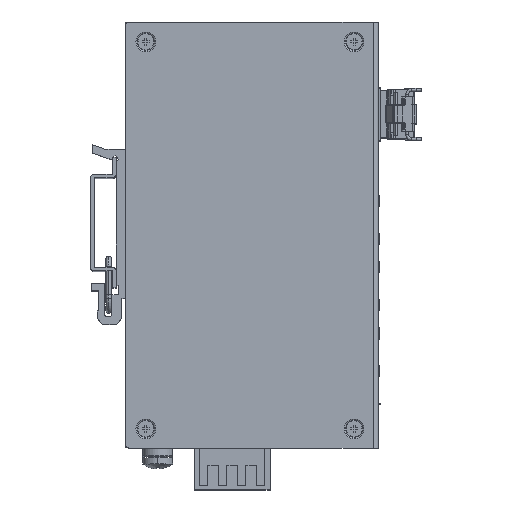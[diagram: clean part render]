
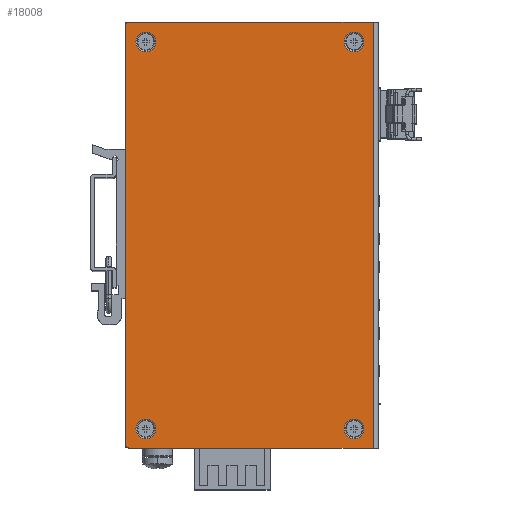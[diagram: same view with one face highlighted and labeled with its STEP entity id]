
A CAD part, top view. The second image highlights one B-rep face of the part: STEP entity #18008.
In plain terms, the highlighted planar face has unit normal (0, 0, 1) as drawn and (1, 0, 0) by its records, which use the part's own axes.
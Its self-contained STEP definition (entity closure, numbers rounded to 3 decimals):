
#15923=DIRECTION('',(0.,1.,0.));
#15924=VECTOR('',#15923,114.5);
#15925=CARTESIAN_POINT('',(22.8,0.,-79.454));
#15926=LINE('',#15925,#15924);
#15931=CARTESIAN_POINT('',(22.8,1.,-13.954));
#15932=DIRECTION('',(-1.,0.,0.));
#15933=DIRECTION('',(0.,-1.,0.));
#15934=AXIS2_PLACEMENT_3D('',#15931,#15932,#15933);
#15936=DIRECTION('',(0.,1.,0.));
#15937=VECTOR('',#15936,112.5);
#15938=CARTESIAN_POINT('',(22.8,1.,-12.954));
#15939=LINE('',#15938,#15937);
#15940=CARTESIAN_POINT('',(22.8,113.5,-13.954));
#15941=DIRECTION('',(-1.,0.,0.));
#15942=DIRECTION('',(0.,0.,1.));
#15943=AXIS2_PLACEMENT_3D('',#15940,#15941,#15942);
#15945=DIRECTION('',(0.,0.,-1.));
#15946=VECTOR('',#15945,65.5);
#15947=CARTESIAN_POINT('',(22.8,114.5,-13.954));
#15948=LINE('',#15947,#15946);
#15949=DIRECTION('',(0.,0.,1.));
#15950=VECTOR('',#15949,65.5);
#15951=CARTESIAN_POINT('',(22.8,0.,-79.454));
#15952=LINE('',#15951,#15950);
#15953=CARTESIAN_POINT('',(22.8,5.15,-18.354));
#15954=DIRECTION('',(1.,0.,0.));
#15955=DIRECTION('',(0.,0.,-1.));
#15956=AXIS2_PLACEMENT_3D('',#15953,#15954,#15955);
#15958=CARTESIAN_POINT('',(22.8,5.15,-18.354));
#15959=DIRECTION('',(1.,0.,0.));
#15960=DIRECTION('',(0.,0.,1.));
#15961=AXIS2_PLACEMENT_3D('',#15958,#15959,#15960);
#15963=CARTESIAN_POINT('',(22.8,109.15,-18.354));
#15964=DIRECTION('',(1.,0.,0.));
#15965=DIRECTION('',(0.,0.,-1.));
#15966=AXIS2_PLACEMENT_3D('',#15963,#15964,#15965);
#15968=CARTESIAN_POINT('',(22.8,109.15,-18.354));
#15969=DIRECTION('',(1.,0.,0.));
#15970=DIRECTION('',(0.,0.,1.));
#15971=AXIS2_PLACEMENT_3D('',#15968,#15969,#15970);
#15973=CARTESIAN_POINT('',(22.8,5.15,-74.354));
#15974=DIRECTION('',(1.,0.,0.));
#15975=DIRECTION('',(0.,0.,1.));
#15976=AXIS2_PLACEMENT_3D('',#15973,#15974,#15975);
#15978=CARTESIAN_POINT('',(22.8,5.15,-74.354));
#15979=DIRECTION('',(1.,0.,0.));
#15980=DIRECTION('',(0.,0.,-1.));
#15981=AXIS2_PLACEMENT_3D('',#15978,#15979,#15980);
#15983=CARTESIAN_POINT('',(22.8,109.15,-74.354));
#15984=DIRECTION('',(1.,0.,0.));
#15985=DIRECTION('',(0.,0.,1.));
#15986=AXIS2_PLACEMENT_3D('',#15983,#15984,#15985);
#15988=CARTESIAN_POINT('',(22.8,109.15,-74.354));
#15989=DIRECTION('',(1.,0.,0.));
#15990=DIRECTION('',(0.,0.,-1.));
#15991=AXIS2_PLACEMENT_3D('',#15988,#15989,#15990);
#17363=CARTESIAN_POINT('',(22.8,0.,-79.454));
#17364=VERTEX_POINT('',#17363);
#17367=CARTESIAN_POINT('',(22.8,114.5,-79.454));
#17368=VERTEX_POINT('',#17367);
#17369=CARTESIAN_POINT('',(22.8,0.,-13.954));
#17370=CARTESIAN_POINT('',(22.8,1.,-12.954));
#17371=VERTEX_POINT('',#17369);
#17372=VERTEX_POINT('',#17370);
#17373=CARTESIAN_POINT('',(22.8,113.5,-12.954));
#17374=VERTEX_POINT('',#17373);
#17375=CARTESIAN_POINT('',(22.8,114.5,-13.954));
#17376=VERTEX_POINT('',#17375);
#17377=CARTESIAN_POINT('',(22.8,5.15,-21.004));
#17378=CARTESIAN_POINT('',(22.8,5.15,-15.704));
#17379=VERTEX_POINT('',#17377);
#17380=VERTEX_POINT('',#17378);
#17381=CARTESIAN_POINT('',(22.8,109.15,-21.004));
#17382=CARTESIAN_POINT('',(22.8,109.15,-15.704));
#17383=VERTEX_POINT('',#17381);
#17384=VERTEX_POINT('',#17382);
#17385=CARTESIAN_POINT('',(22.8,5.15,-71.704));
#17386=CARTESIAN_POINT('',(22.8,5.15,-77.004));
#17387=VERTEX_POINT('',#17385);
#17388=VERTEX_POINT('',#17386);
#17389=CARTESIAN_POINT('',(22.8,109.15,-71.704));
#17390=CARTESIAN_POINT('',(22.8,109.15,-77.004));
#17391=VERTEX_POINT('',#17389);
#17392=VERTEX_POINT('',#17390);
#17966=CARTESIAN_POINT('',(22.8,114.5,-80.954));
#17967=DIRECTION('',(1.,0.,0.));
#17968=DIRECTION('',(0.,1.,0.));
#17969=AXIS2_PLACEMENT_3D('',#17966,#17967,#17968);
#17970=PLANE('',#17969);
#17972=ORIENTED_EDGE('',*,*,#17971,.T.);
#17974=ORIENTED_EDGE('',*,*,#17973,.T.);
#17976=ORIENTED_EDGE('',*,*,#17975,.T.);
#17978=ORIENTED_EDGE('',*,*,#17977,.T.);
#17979=ORIENTED_EDGE('',*,*,#17956,.F.);
#17981=ORIENTED_EDGE('',*,*,#17980,.T.);
#17982=EDGE_LOOP('',(#17972,#17974,#17976,#17978,#17979,#17981));
#17983=FACE_OUTER_BOUND('',#17982,.F.);
#17985=ORIENTED_EDGE('',*,*,#17984,.T.);
#17987=ORIENTED_EDGE('',*,*,#17986,.T.);
#17988=EDGE_LOOP('',(#17985,#17987));
#17989=FACE_BOUND('',#17988,.F.);
#17991=ORIENTED_EDGE('',*,*,#17990,.T.);
#17993=ORIENTED_EDGE('',*,*,#17992,.T.);
#17994=EDGE_LOOP('',(#17991,#17993));
#17995=FACE_BOUND('',#17994,.F.);
#17997=ORIENTED_EDGE('',*,*,#17996,.T.);
#17999=ORIENTED_EDGE('',*,*,#17998,.T.);
#18000=EDGE_LOOP('',(#17997,#17999));
#18001=FACE_BOUND('',#18000,.F.);
#18003=ORIENTED_EDGE('',*,*,#18002,.T.);
#18005=ORIENTED_EDGE('',*,*,#18004,.T.);
#18006=EDGE_LOOP('',(#18003,#18005));
#18007=FACE_BOUND('',#18006,.F.);
#15935=CIRCLE('',#15934,1.);
#15944=CIRCLE('',#15943,1.);
#15957=CIRCLE('',#15956,2.65);
#15962=CIRCLE('',#15961,2.65);
#15967=CIRCLE('',#15966,2.65);
#15972=CIRCLE('',#15971,2.65);
#15977=CIRCLE('',#15976,2.65);
#15982=CIRCLE('',#15981,2.65);
#15987=CIRCLE('',#15986,2.65);
#15992=CIRCLE('',#15991,2.65);
#17956=EDGE_CURVE('',#17364,#17368,#15926,.T.);
#17971=EDGE_CURVE('',#17371,#17372,#15935,.T.);
#17973=EDGE_CURVE('',#17372,#17374,#15939,.T.);
#17975=EDGE_CURVE('',#17374,#17376,#15944,.T.);
#17977=EDGE_CURVE('',#17376,#17368,#15948,.T.);
#17980=EDGE_CURVE('',#17364,#17371,#15952,.T.);
#17984=EDGE_CURVE('',#17379,#17380,#15957,.T.);
#17986=EDGE_CURVE('',#17380,#17379,#15962,.T.);
#17990=EDGE_CURVE('',#17383,#17384,#15967,.T.);
#17992=EDGE_CURVE('',#17384,#17383,#15972,.T.);
#17996=EDGE_CURVE('',#17387,#17388,#15977,.T.);
#17998=EDGE_CURVE('',#17388,#17387,#15982,.T.);
#18002=EDGE_CURVE('',#17391,#17392,#15987,.T.);
#18004=EDGE_CURVE('',#17392,#17391,#15992,.T.);
#18008=ADVANCED_FACE('',(#17983,#17989,#17995,#18001,#18007),#17970,.T.);
